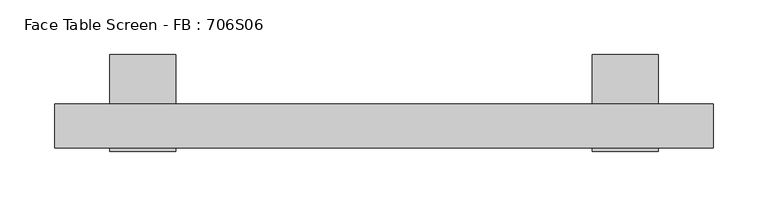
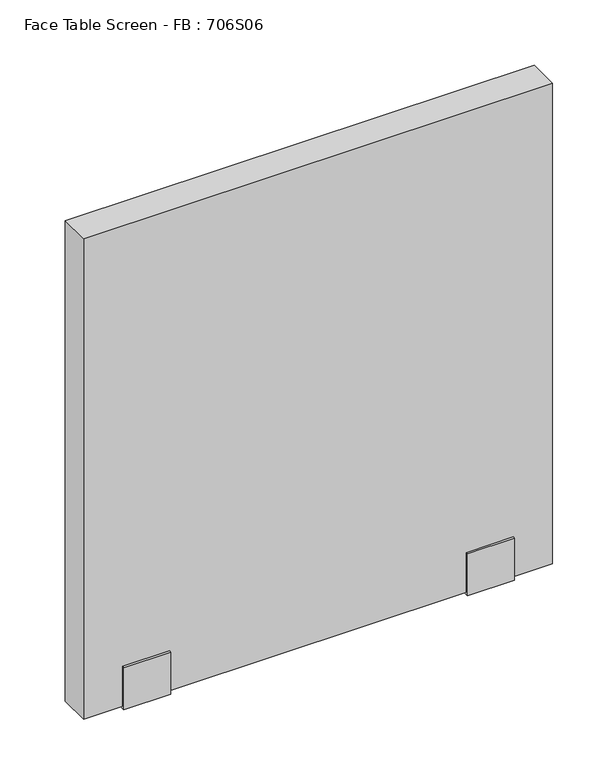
"""IFC4 building model written with IfcOpenShell, lengths in millimetres: furniture geometry, Face Table Screen - FB : 706S06."""

from ifc_helpers import new_model, si_unit, frame, origin, place, context, project, spatial, polyline, outline, extrude, source, transform, mapped, element, save


def face_table_screen_fb_706s06_270b821b(model_context):
    return source(origin(), model_context, "Body", "SweptSolid", [
        extrude(outline(polyline([(-42.9999947, -256.0), (-42.9999997, -199.0433898), (-40.0, -199.0433898), (-40.0, -253.0), (0.0, -253.0), (0.0, -22.0), (45.0, -22.0), (45.0, -25.0433898), (3.0000062, -25.0433898), (2.9999947, -256.0), (-42.9999947, -256.0)])), frame((209.9863751, 0.0, 0.0), z_axis=(1.0, 0.0, 0.0), x_axis=(0.0, 1.0, 0.0)), (0.0, 0.0, 1.0), 60.0),
        extrude(outline(polyline([(-42.9999947, -256.0), (-42.9999997, -199.0433898), (-40.0, -199.0433898), (-40.0, -253.0), (0.0, -253.0), (0.0, -22.0), (45.0, -22.0), (45.0, -25.0433898), (3.0000062, -25.0433898), (2.9999947, -256.0), (-42.9999947, -256.0)])), frame((-230.0136249, 0.0, 0.0), z_axis=(1.0, 0.0, 0.0), x_axis=(0.0, 1.0, 0.0)), (0.0, 0.0, 1.0), 60.0),
        extrude(outline(polyline([(319.9863751, -40.0), (-280.0136249, -40.0), (-280.0136249, 0.0), (319.9863751, 0.0), (319.9863751, -40.0)])), frame((0.0, 0.0, -253.0), z_axis=(0.0, 0.0, 1.0), x_axis=(1.0, 0.0, 0.0)), (0.0, 0.0, 1.0), 650.0),
    ])


if __name__ == "__main__":
    model = new_model("IFC4")
    model_context = context("Model", 3, world=origin())
    ifc_project = project(units=[si_unit("LENGTHUNIT", "METRE", prefix="MILLI")], contexts=[model_context])
    site = spatial("IfcSite", under=ifc_project)
    building = spatial("IfcBuilding", under=site)
    placement = place(None, origin())
    face_table_screen_fb_706s06_shape = face_table_screen_fb_706s06_270b821b(model_context)
    element("IfcFurniture", 1, ObjectType="Face Table Screen - FB : 706S06", at=placement, inside=building, context=model_context, shape_type="MappedRepresentation", body=[
        mapped(face_table_screen_fb_706s06_shape, transform((0.0, 0.0, 0.0), x_axis=(1.0, 0.0, 0.0), y_axis=(0.0, 1.0, 0.0), z_axis=(0.0, 0.0, 1.0))),
    ])
    save(model, "model.ifc")
